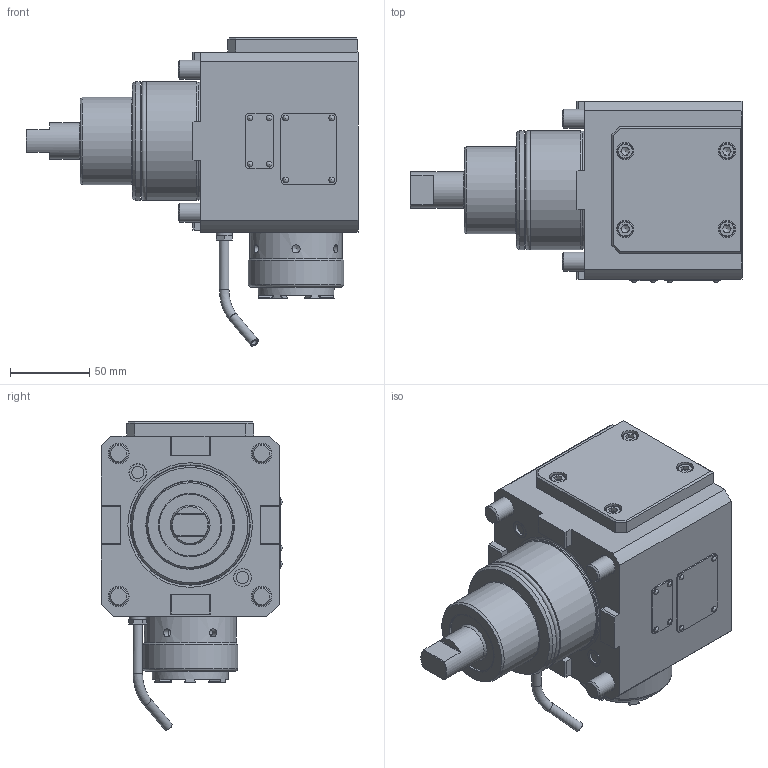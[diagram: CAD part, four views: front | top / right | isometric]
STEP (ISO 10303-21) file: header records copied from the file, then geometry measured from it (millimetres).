
FILE_DESCRIPTION(/* description */ (''),/* implementation_level */ '2;1');
FILE_NAME(/* name */ '169324',/* time_stamp */ '2020-05-26T07:35:05+02:00',/* author */ (''),/* organization */ (''),/* preprocessor_version */ 'ST-DEVELOPER v16.5',/* originating_system */ 'HiCAD 2017 2201.0 Build 268',/* authorisation */ '');
FILE_SCHEMA (('AUTOMOTIVE_DESIGN { 1 0 10303 214 1 1 1 1 }'));
Length unit declared in the file: millimetre
Products named in the file (16): Root; Teil; GEWINDE; DIN 13-M8; DIN 13-M40x1; DIN 13-M50x1,5
Assembly tree (15 placements, depth 3):
  Root
    Teil
      GEWINDE
      GEWINDE
      GEWINDE
      GEWINDE
      GEWINDE
      GEWINDE
      GEWINDE
      GEWINDE
      GEWINDE
      GEWINDE
      DIN 13-M8
      DIN 13-M40x1
      DIN 13-M50x1,5
      DIN 13-M8
Bounding box: 209 x 114.3 x 194.15 mm (x, y, z)
Volume: 1656311.5 mm3; surface area: 188108 mm2
Topology: 17 solids, 29 shells, 613 faces, 1453 edges, 942 vertices
Faces by surface type: plane 355, cylinder 166, cone 52, torus 28, sphere 8, bspline 4
Full cylindrical faces by diameter (mm): 2 x8, 2.2 x8, 4 x3, 4.773 x8, 5.1 x6, 6 x10, 6.466 x2, 6.6 x4, 6.8 x1, 7.65 x2, 8 x3, 8.773 x2, 10 x5, 10.2 x8, 11 x4, 11.01 x2, 11.1 x2, 12 x8, 13 x4, 18 x4, 20 x5, 23 x1, 30.499 x1, 30.5 x1, 33.5 x2, 35 x1, 36.2 x1, 37.03 x1, 38.92 x1, 40 x2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
Entity records: 36540 total; most frequent: CARTESIAN_POINT 9983, DIRECTION 2758, PRESENTATION_STYLE_ASSIGNMENT 2586, OVER_RIDING_STYLED_ITEM 2571, COLOUR_RGB 2301, DRAUGHTING_PRE_DEFINED_CURVE_FONT 2290, CURVE_STYLE 2290, ORIENTED_EDGE 2290
